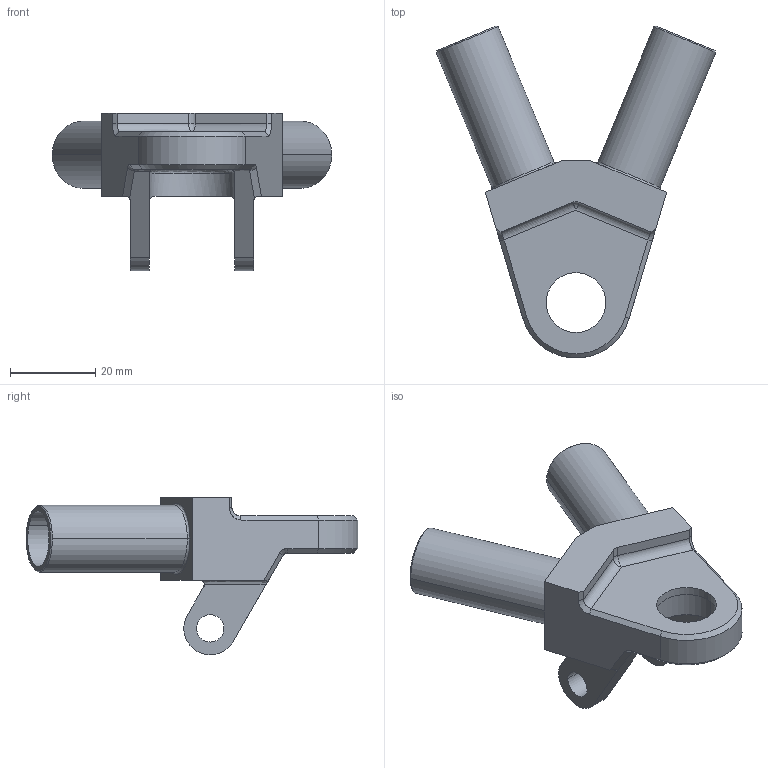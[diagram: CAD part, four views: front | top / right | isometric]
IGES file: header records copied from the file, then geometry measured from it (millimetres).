
Start section: START RECORD GO HERE.
Global section: file name: SU_01003  (Outer Bearing support).igs; native system: IBM CATIA IGES - CATIA Version 5 Release 19 ; preprocessor: CATIA Version 5 Release 19 ; author: Le Genie; organization: THUNDERBOLT-OF-; date: 20220127.115541; units: millimetre
Bounding box: 65.53 x 77.74 x 36.97 mm (x, y, z)
Surface area: 12782.8 mm2 (no closed solid volume)
Topology: 0 solids, 0 shells, 87 faces, 434 edges, 443 vertices
Faces by surface type: revolution 53, plane 26, bspline 8
